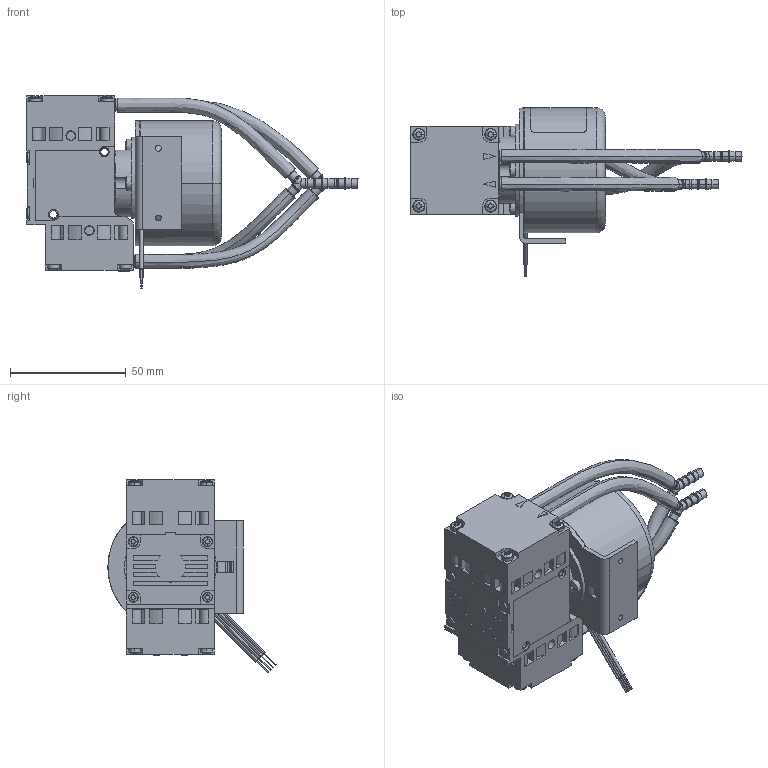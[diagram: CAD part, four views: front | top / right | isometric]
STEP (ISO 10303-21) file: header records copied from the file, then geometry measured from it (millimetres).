
FILE_DESCRIPTION((''),'2;1');
FILE_NAME('NMP850_1_2DCB333','2018-10-16T',('Rafael.Senra'),('KNF Micro AG'),'PRO/ENGINEER BY PARAMETRIC TECHNOLOGY CORPORATION, 2015200','PRO/ENGINEER BY PARAMETRIC TECHNOLOGY CORPORATION, 2015200','');
FILE_SCHEMA(('CONFIG_CONTROL_DESIGN'));
Length unit declared in the file: millimetre
Products named in the file (1): NMP850_1_2DCB333
Bounding box: 143.29 x 72.69 x 83.64 mm (x, y, z)
Volume: 206188.6 mm3; surface area: 44156.1 mm2
Topology: 1 solids, 3 shells, 1161 faces, 3029 edges, 1959 vertices
Faces by surface type: plane 581, cylinder 450, cone 43, torus 39, sphere 32, bspline 16
Entity records: 42715 total; most frequent: CARTESIAN_POINT 13985, ORIENTED_EDGE 6058, DIRECTION 5934, EDGE_CURVE 3029, AXIS2_PLACEMENT_3D 2173, VERTEX_POINT 1959, VECTOR 1588, LINE 1588
